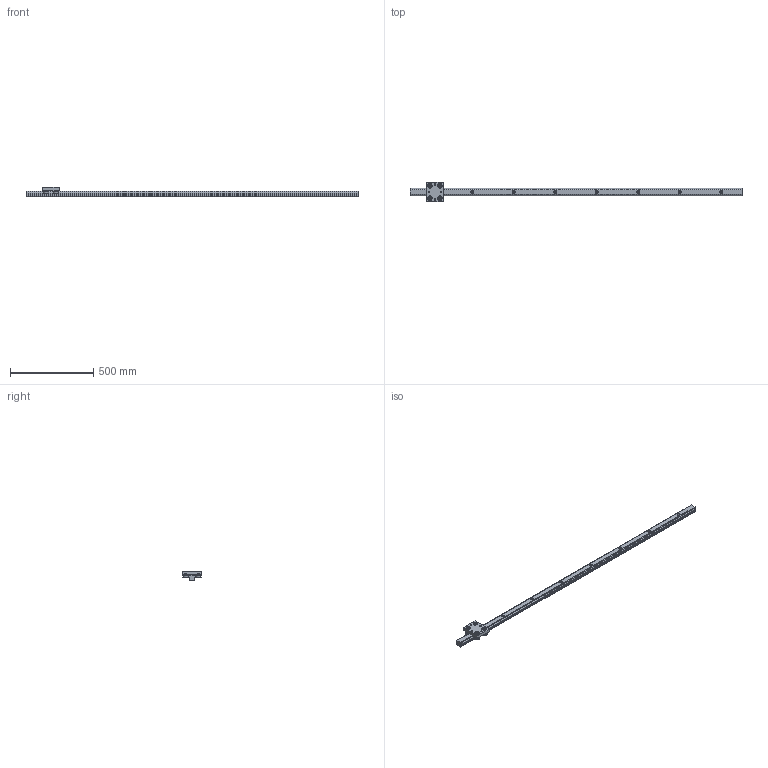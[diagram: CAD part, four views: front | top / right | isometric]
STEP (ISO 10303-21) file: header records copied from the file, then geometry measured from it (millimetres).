
FILE_DESCRIPTION((''),'2;1');
FILE_NAME('C:\Documents and Settings\土屋\My Documents\土屋移動用フォルダ\製品 (図面)\改正SPDRダウンロード用図面\step形式\SPDR43R.stp','2017-07-18T16:50:46',('y'),(''),'Autodesk Inventor 11','Autodesk Inventor 11','');
FILE_SCHEMA(('AUTOMOTIVE_DESIGN { 1 0 10303 214 1 1 1 1 }'));
Length unit declared in the file: millimetre
Products named in the file (3): SPDR43R; SPDR43Rレール; SPDR43Rキャリッジ
Assembly tree (2 placements, depth 2):
  SPDR43R
    SPDR43Rレール
    SPDR43Rキャリッジ
Bounding box: 2000 x 120 x 54.3 mm (x, y, z)
Volume: 2471573.1 mm3; surface area: 373289 mm2
Topology: 2 solids, 2 shells, 196 faces, 428 edges, 268 vertices
Faces by surface type: plane 74, cone 52, bspline 40, cylinder 30
Full cylindrical faces by diameter (mm): 12 x4, 18 x4, 21 x4, 35 x8
Entity records: 5648 total; most frequent: CARTESIAN_POINT 1785, DIRECTION 754, ORIENTED_EDGE 736, EDGE_CURVE 368, AXIS2_PLACEMENT_3D 321, EDGE_LOOP 304, VERTEX_POINT 260, FACE_OUTER_BOUND 196
